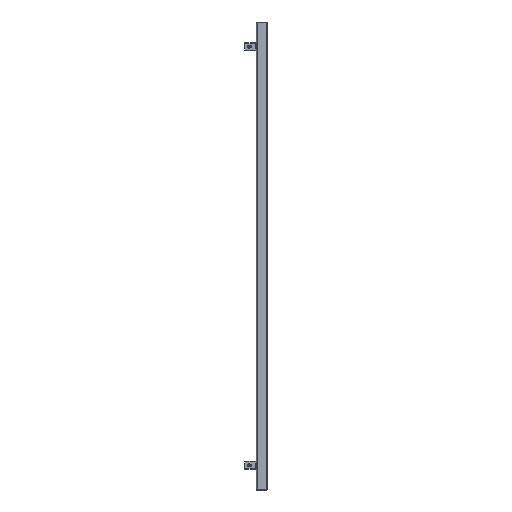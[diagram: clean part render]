
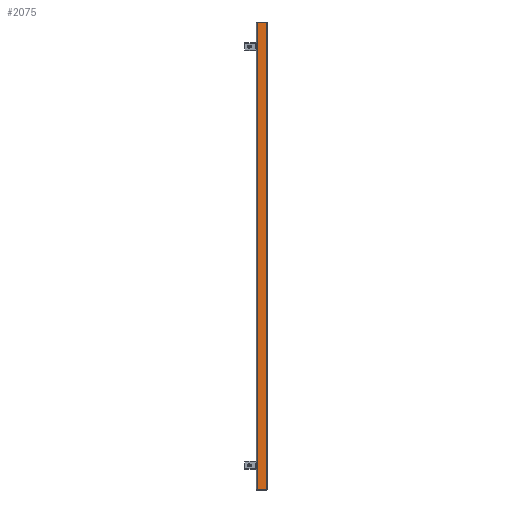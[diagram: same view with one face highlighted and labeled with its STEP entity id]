
A CAD part, left-side view. The second image highlights one B-rep face of the part: STEP entity #2075.
In plain terms, the highlighted planar face has unit normal (-1, 0, 0).
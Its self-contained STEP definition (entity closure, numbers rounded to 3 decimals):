
#1726=CARTESIAN_POINT('',(-240.0,-17.,1.5));
#1727=VERTEX_POINT('',#1726);
#1878=CARTESIAN_POINT('',(-240.0,17.,1.5));
#1879=VERTEX_POINT('',#1878);
#1896=CARTESIAN_POINT('',(-240.0,-17.,1.5));
#1897=DIRECTION('',(0.0,1.0,0.0));
#1898=VECTOR('',#1897,34.0);
#1899=LINE('',#1896,#1898);
#1900=EDGE_CURVE('',#1727,#1879,#1899,.T.);
#2045=CARTESIAN_POINT('',(-240.0,-17.,0.0));
#2046=DIRECTION('',(-1.0,0.0,0.0));
#2047=DIRECTION('',(0.0,0.0,1.0));
#2048=AXIS2_PLACEMENT_3D('',#2045,#2046,#2047);
#2049=PLANE('',#2048);
#2050=ORIENTED_EDGE('',*,*,#1900,.F.);
#2051=CARTESIAN_POINT('',(-240.0,-17.,1698.5));
#2052=VERTEX_POINT('',#2051);
#2053=CARTESIAN_POINT('',(-240.0,-17.,1.5));
#2054=DIRECTION('',(0.0,0.0,1.0));
#2055=VECTOR('',#2054,1697.0);
#2056=LINE('',#2053,#2055);
#2057=EDGE_CURVE('',#1727,#2052,#2056,.T.);
#2058=ORIENTED_EDGE('',*,*,#2057,.T.);
#2059=CARTESIAN_POINT('',(-240.0,17.,1698.5));
#2060=VERTEX_POINT('',#2059);
#2061=CARTESIAN_POINT('',(-240.0,17.,1698.5));
#2062=DIRECTION('',(0.0,-1.0,0.0));
#2063=VECTOR('',#2062,34.0);
#2064=LINE('',#2061,#2063);
#2065=EDGE_CURVE('',#2060,#2052,#2064,.T.);
#2066=ORIENTED_EDGE('',*,*,#2065,.F.);
#2067=CARTESIAN_POINT('',(-240.0,17.,1.5));
#2068=DIRECTION('',(0.0,0.0,1.0));
#2069=VECTOR('',#2068,1697.0);
#2070=LINE('',#2067,#2069);
#2071=EDGE_CURVE('',#1879,#2060,#2070,.T.);
#2072=ORIENTED_EDGE('',*,*,#2071,.F.);
#2073=EDGE_LOOP('',(#2050,#2058,#2066,#2072));
#2074=FACE_OUTER_BOUND('',#2073,.T.);
#2075=ADVANCED_FACE('',(#2074),#2049,.T.);
